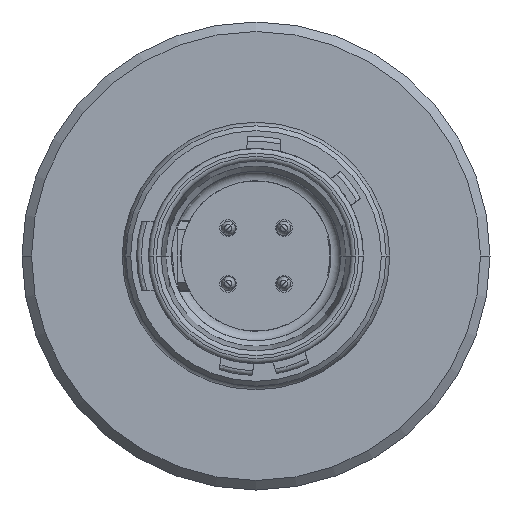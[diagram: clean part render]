
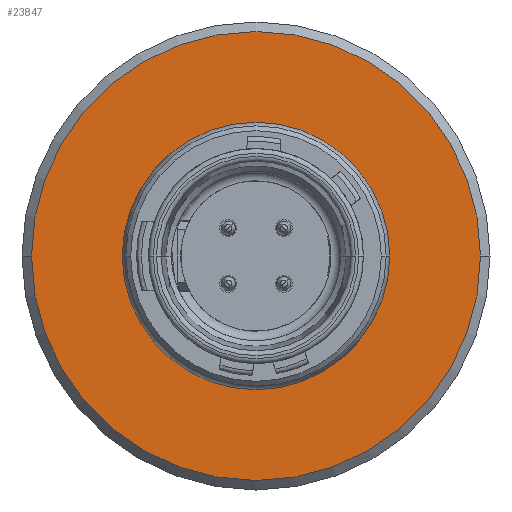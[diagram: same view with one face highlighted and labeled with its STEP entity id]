
A CAD part, left-side view. The second image highlights one B-rep face of the part: STEP entity #23847.
In plain terms, the highlighted planar face has unit normal (-1, 0, 0).
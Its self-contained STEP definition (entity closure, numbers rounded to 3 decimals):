
#8724=CARTESIAN_POINT('',(-2.2,0.,0.));
#8725=DIRECTION('',(1.,0.,0.));
#8726=DIRECTION('',(0.,-1.,0.));
#8727=AXIS2_PLACEMENT_3D('',#8724,#8725,#8726);
#8729=CARTESIAN_POINT('',(-2.2,0.,0.));
#8730=DIRECTION('',(1.,0.,0.));
#8731=DIRECTION('',(0.,1.,0.));
#8732=AXIS2_PLACEMENT_3D('',#8729,#8730,#8731);
#8734=CARTESIAN_POINT('',(-2.2,0.,0.));
#8735=DIRECTION('',(-1.,0.,0.));
#8736=DIRECTION('',(0.,1.,0.));
#8737=AXIS2_PLACEMENT_3D('',#8734,#8735,#8736);
#8743=CARTESIAN_POINT('',(-2.2,0.,0.));
#8744=DIRECTION('',(1.,0.,0.));
#8745=DIRECTION('',(0.,1.,0.));
#8746=AXIS2_PLACEMENT_3D('',#8743,#8744,#8745);
#13260=CARTESIAN_POINT('',(-2.2,-4.7,0.));
#13261=CARTESIAN_POINT('',(-2.2,4.7,0.));
#13262=VERTEX_POINT('',#13260);
#13263=VERTEX_POINT('',#13261);
#13296=CARTESIAN_POINT('',(-2.2,2.641,0.));
#13298=VERTEX_POINT('',#13296);
#13302=CARTESIAN_POINT('',(-2.2,-2.641,0.));
#13304=VERTEX_POINT('',#13302);
#23832=CARTESIAN_POINT('',(-2.2,0.,0.));
#23833=DIRECTION('',(-1.,0.,0.));
#23834=DIRECTION('',(0.,-1.,0.));
#23835=AXIS2_PLACEMENT_3D('',#23832,#23833,#23834);
#23836=PLANE('',#23835);
#23837=ORIENTED_EDGE('',*,*,#23800,.T.);
#23838=ORIENTED_EDGE('',*,*,#23778,.T.);
#23839=EDGE_LOOP('',(#23837,#23838));
#23840=FACE_OUTER_BOUND('',#23839,.F.);
#23842=ORIENTED_EDGE('',*,*,#23841,.T.);
#23844=ORIENTED_EDGE('',*,*,#23843,.F.);
#23845=EDGE_LOOP('',(#23842,#23844));
#23846=FACE_BOUND('',#23845,.F.);
#8728=CIRCLE('',#8727,4.7);
#8733=CIRCLE('',#8732,4.7);
#8738=CIRCLE('',#8737,2.641);
#8747=CIRCLE('',#8746,2.641);
#23778=EDGE_CURVE('',#13263,#13262,#8733,.T.);
#23800=EDGE_CURVE('',#13262,#13263,#8728,.T.);
#23841=EDGE_CURVE('',#13298,#13304,#8738,.T.);
#23843=EDGE_CURVE('',#13298,#13304,#8747,.T.);
#23847=ADVANCED_FACE('',(#23840,#23846),#23836,.T.);
